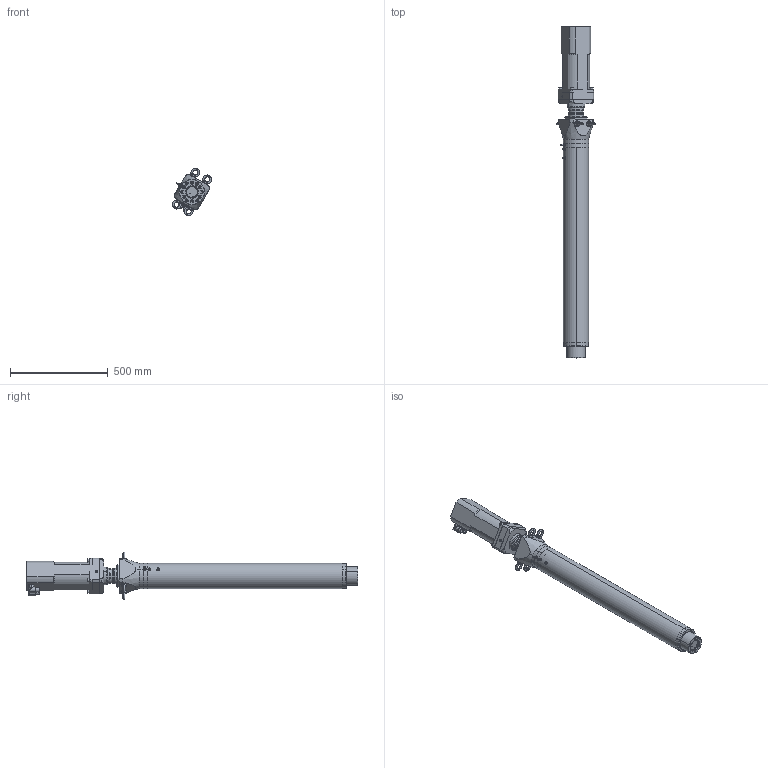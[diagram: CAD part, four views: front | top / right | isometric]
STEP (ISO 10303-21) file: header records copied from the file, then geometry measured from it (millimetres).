
FILE_DESCRIPTION (( 'STEP AP214' ), '1' );
FILE_NAME ('RLWIK030D-075-025HG0.STEP', '2023-04-05T14:05:56', ( '' ), ( '' ), 'SwSTEP 2.0', 'SolidWorks 2021', '' );
FILE_SCHEMA (( 'AUTOMOTIVE_DESIGN' ));
Length unit declared in the file: millimetre
Products named in the file (1): RLWIK030D-075-025HG0
Bounding box: 200.61 x 1702.5 x 244.54 mm (x, y, z)
Volume: 17930679 mm3; surface area: 1839134 mm2
Topology: 33 solids, 33 shells, 1105 faces, 2585 edges, 1547 vertices
Faces by surface type: cylinder 450, plane 339, cone 236, torus 60, bspline 18, sphere 2
Entity records: 45655 total; most frequent: CARTESIAN_POINT 7756, DIRECTION 5672, ORIENTED_EDGE 4930, EDGE_CURVE 2465, AXIS2_PLACEMENT_3D 2281, VERTEX_POINT 1547, EDGE_LOOP 1314, CIRCLE 1193
